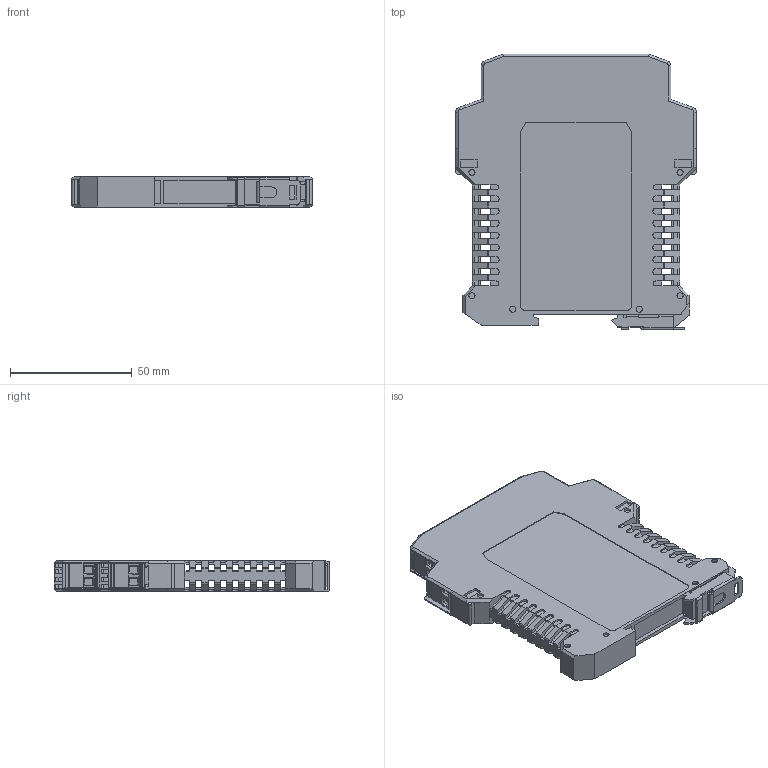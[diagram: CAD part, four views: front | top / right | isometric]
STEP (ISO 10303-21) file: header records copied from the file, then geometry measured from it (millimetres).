
FILE_DESCRIPTION((''),'2;1');
FILE_NAME('CZ3000-12_5-WH-1111_ASM','2024-01-04T10:07:08',('Admin'),(''),'CREO PARAMETRIC BY PTC INC, 2021404','CREO PARAMETRIC BY PTC INC, 2021404','');
FILE_SCHEMA(('CONFIG_CONTROL_DESIGN','SHAPE_APPEARANCE_LAYERS_GROUPS'));
Length unit declared in the file: millimetre
Products named in the file (5): 0073B01300_1_1; DINKLE_5ESDT-02P; 0073F4XX00_1_1_2; CZ3000-12_5-1111_ASM; CZ3000-12_5-WH-1111_ASM
Assembly tree (7 placements, depth 3):
  CZ3000-12_5-WH-1111_ASM
    CZ3000-12_5-1111_ASM
      0073B01300_1_1
      DINKLE_5ESDT-02P  x4
      0073F4XX00_1_1_2
Bounding box: 99 x 113.5 x 12.65 mm (x, y, z)
Volume: 34699 mm3; surface area: 50922.3 mm2
Topology: 1 solids, 8 shells, 1726 faces, 4835 edges, 3104 vertices
Faces by surface type: plane 1133, cylinder 421, torus 80, cone 60, bspline 32
Entity records: 48372 total; most frequent: CARTESIAN_POINT 7619, ORIENTED_EDGE 6784, DIRECTION 6216, EDGE_CURVE 3392, VECTOR 2780, LINE 2780, VERTEX_POINT 2198, AXIS2_PLACEMENT_3D 1718
